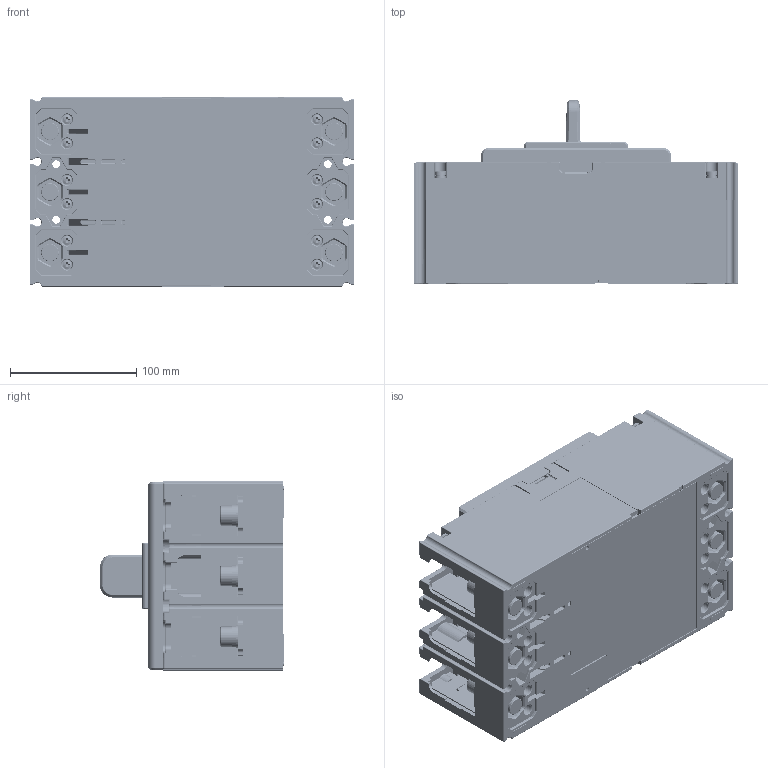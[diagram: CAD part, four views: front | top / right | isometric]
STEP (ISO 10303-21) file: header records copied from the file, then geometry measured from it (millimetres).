
FILE_DESCRIPTION((''),'2;1');
FILE_NAME('2253065400_ASM_ASM','2025-04-28T',('Administrator'),(''),'PRO/ENGINEER BY PARAMETRIC TECHNOLOGY CORPORATION, 2015440','PRO/ENGINEER BY PARAMETRIC TECHNOLOGY CORPORATION, 2015440','');
FILE_SCHEMA(('CONFIG_CONTROL_DESIGN'));
Products named in the file (46): JZ_5024058700_1; GB_T809-M5X16_1; 5024058700_ASM_1_ASM; 89400078R0_1; 8420031000_1; 5551070700_ASM_1_ASM; 5551148600_ASM_1_ASM; MANIFOLD_SOLID_BREP_185338; MANIFOLD_SOLID_BREP_185478; 8551044200_1_ASM; 5551102500_ASM_1_ASM; 7030100512_GB_T9074_4_M5X45_1; 7010100505J_GB_T823_M4X10_1; 7090300401K_GB_T93_4_1; 7090200011_GB_T97_4_4_S_1; 5850007500_ASM_1_ASM; 5295020000_ASM_1_ASM; 8742105100_1; 8253057400_1; 8865077500_AF0_1; 8865077600_AF0_1; 5253021200_ASM_1_ASM; 8742103700_1; GB_T70_1-M10X25_1; GB_T9074_26-10_1; GB_T97_4_10_1; 58500026C0_ASM_1_ASM; GZ_5315075100_1; GB_T809-M3X8_1; 5315075100_ASM_1_ASM; 8282201200_AF0_1; 8253076500_1; 5315076500_ASM_1_ASM; 8322007400_1; 8315095700_1; GB_T823-M5X35_1; 7090300501K_GB_T93_5_1; GB_T97_4_5_1; 5850007400_ASM_1_ASM; 7010100305R01_GB_T823_M3X10_1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
Assembly tree (100 placements, depth 6):
  2253065400_ASM_ASM
    2253065400_ASM_1_ASM
      5295020000_ASM_1_ASM
        5024058700_ASM_1_ASM
          JZ_5024058700_1
          GB_T809-M5X16_1  x6
        89400078R0_1  x6
        5551148600_ASM_1_ASM
          5551070700_ASM_1_ASM  x3
            8420031000_1
        5551102500_ASM_1_ASM  x3
          8551044200_1_ASM
            MANIFOLD_SOLID_BREP_185338
            MANIFOLD_SOLID_BREP_185478
        7030100512_GB_T9074_4_M5X45_1  x4
        5850007500_ASM_1_ASM  x18
          7010100505J_GB_T823_M4X10_1
          7090300401K_GB_T93_4_1
          7090200011_GB_T97_4_4_S_1
      8742105100_1  x3
      5253021200_ASM_1_ASM
        8253057400_1
        8865077500_AF0_1
        8865077600_AF0_1
      8742103700_1  x3
      58500026C0_ASM_1_ASM  x6
        GB_T70_1-M10X25_1
        GB_T9074_26-10_1
        GB_T97_4_10_1
      5315076500_ASM_1_ASM
        5315075100_ASM_1_ASM
          GZ_5315075100_1
          GB_T809-M3X8_1  x4
        8282201200_AF0_1
        8253076500_1
      8322007400_1  x2
      8315095700_1
      5850007400_ASM_1_ASM  x6
        GB_T823-M5X35_1
        7090300501K_GB_T93_5_1
        GB_T97_4_5_1
      5850007700_ASM_1_ASM  x4
        7010100305R01_GB_T823_M3X10_1
        7090300201_GB_T93_3_1
        GB_T97_4_3_1
      8742155300_1
Bounding box: 257 x 145.9 x 150 mm (x, y, z)
Volume: 1454724.2 mm3; surface area: 745824.3 mm2
Topology: 148 solids, 218 shells, 9836 faces, 25583 edges, 16098 vertices
Faces by surface type: plane 5359, cylinder 2963, torus 448, cone 418, sphere 295, extrusion 215, bspline 138
Entity records: 251886 total; most frequent: CARTESIAN_POINT 58756, ORIENTED_EDGE 40606, DIRECTION 39442, EDGE_CURVE 20333, VECTOR 14206, LINE 13991, VERTEX_POINT 12973, AXIS2_PLACEMENT_3D 12618
